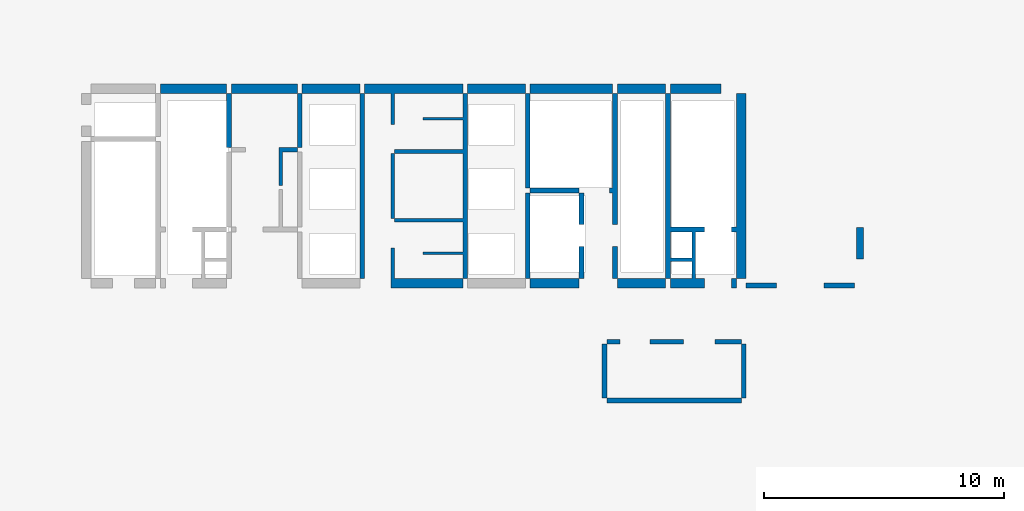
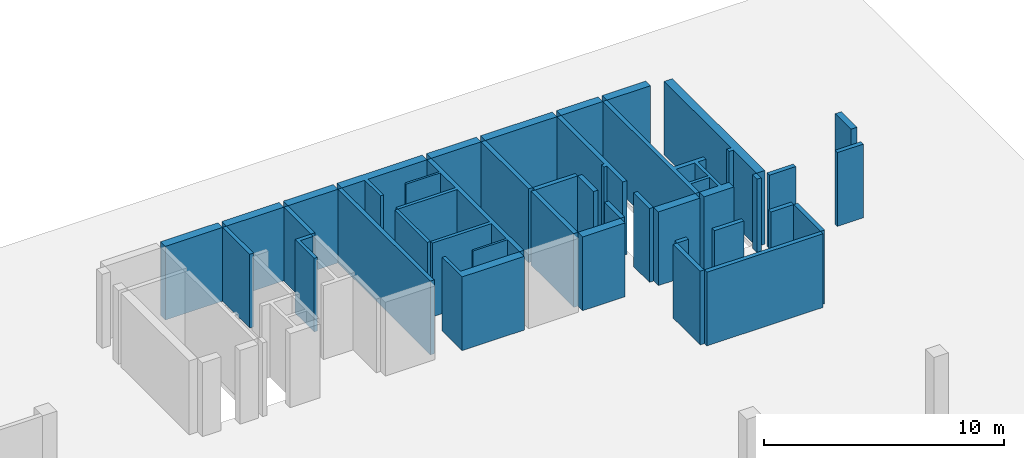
# One storey, part 2 of 2: 36 walls.
"""IFC4 building model written with IfcOpenShell, lengths in millimetres."""

from ifc_helpers import new_model, si_unit, frame, origin, place, context, project, spatial, triangles, element, save


model = new_model("IFC4")

# Units and contexts
model_context = context("Model", 3, precision=0.001, world=origin())
ifc_project = project(units=[si_unit("LENGTHUNIT", "METRE", prefix="MILLI"), si_unit("AREAUNIT", "SQUARE_METRE"), si_unit("VOLUMEUNIT", "CUBIC_METRE")], contexts=[model_context])

# Site, building, storey
site_placement = place(None, origin())
site = spatial("IfcSite", under=ifc_project, at=site_placement, Name="Site", CompositionType="ELEMENT")
building_placement = place(site_placement, origin())
building = spatial("IfcBuilding", under=site, at=building_placement, Name="INNOCEAN", CompositionType="ELEMENT")
storey_placement = place(building_placement, frame((0.0, 0.0, -9000.0)))
storey = spatial("IfcBuildingStorey", under=building, at=storey_placement, Name="B2", CompositionType="ELEMENT", Elevation=-9000.0)

# Walls
wall_1_placement = place(storey_placement, origin())
element("IfcWall", 1, at=wall_1_placement, inside=storey, Name="B2_Walls_B2_019", context=model_context, shape_type="Tessellation", body=[
    triangles([(19183.7, 25025.8, 0.0), (19183.7, 25419.5, 0.0), (19183.7, 25419.5, 3750.0), (19183.7, 25025.8, 3750.0), (16429.3, 25025.8, 3750.0), (16429.3, 25025.8, 0.0), (16429.3, 25419.5, 0.0), (16429.3, 25419.5, 3750.0)], [[1, 2, 3], [1, 3, 4], [1, 4, 5], [6, 1, 5], [7, 6, 5], [7, 5, 8], [7, 8, 3], [2, 7, 3], [7, 2, 1], [7, 1, 6], [3, 8, 4], [4, 8, 5]], closed=True),
])
wall_2_placement = place(storey_placement, origin())
element("IfcWall", 2, at=wall_2_placement, inside=storey, Name="B2_Walls_B2_021", context=model_context, shape_type="Tessellation", body=[
    triangles([(29020.9, 17316.1, 0.0), (26177.7, 17316.1, 0.0), (26177.7, 17316.1, 3750.0), (29020.9, 17316.1, 3750.0), (29020.9, 16922.4, 0.0), (29020.9, 16922.4, 3750.0), (26025.3, 16922.4, 0.0), (26025.3, 16922.4, 3750.0), (26025.3, 17316.1, 0.0), (26025.3, 17316.1, 3750.0), (26025.3, 18573.5, 0.0), (26025.3, 18573.5, 3750.0), (26177.7, 18573.5, 0.0), (26177.7, 18573.5, 3750.0)], [[1, 2, 3], [1, 3, 4], [5, 1, 4], [5, 4, 6], [7, 5, 6], [7, 6, 8], [9, 7, 8], [9, 8, 10], [11, 9, 10], [11, 10, 12], [13, 11, 12], [13, 12, 14], [2, 13, 14], [2, 14, 3], [2, 1, 5], [2, 5, 7], [9, 2, 7], [13, 2, 9], [11, 13, 9], [4, 3, 6], [6, 3, 8], [3, 10, 8], [3, 14, 10], [14, 12, 10]], closed=True),
])
wall_3_placement = place(storey_placement, origin())
element("IfcWall", 3, at=wall_3_placement, inside=storey, Name="B2_Walls_B2_025", context=model_context, shape_type="Tessellation", body=[
    triangles([(29020.9, 19818.3, 0.0), (26380.8, 19818.3, 0.0), (26380.8, 19818.3, 3750.0), (29020.9, 19818.3, 3750.0), (29020.9, 22523.6, 0.0), (29020.9, 22523.6, 3750.0), (26380.8, 22523.6, 0.0), (26380.8, 22523.6, 3750.0), (26177.7, 22523.6, 0.0), (26177.7, 22523.6, 3750.0), (26177.7, 22676.1, 0.0), (26177.7, 22676.1, 3750.0), (26380.8, 22676.1, 0.0), (26380.8, 22676.1, 3750.0), (29020.9, 22676.1, 0.0), (29020.9, 22676.1, 3750.0), (29020.9, 23920.8, 0.0), (29020.9, 23920.8, 3750.0), (29020.0, 23920.8, 3750.0), (29020.0, 23920.8, 0.0), (29020.0, 23920.0, 0.0), (29020.0, 23920.0, 3750.0), (27370.0, 23920.0, 0.0), (27370.0, 23920.0, 3750.0), (27370.0, 24020.0, 0.0), (27370.0, 24020.0, 3750.0), (27370.8, 24020.0, 0.0), (27370.8, 24020.0, 3750.0), (27370.8, 24022.4, 0.0), (27370.8, 24022.4, 3750.0), (29020.9, 24022.4, 0.0), (29020.9, 24022.4, 3750.0), (29020.9, 25025.8, 0.0), (29020.9, 25025.8, 3750.0), (29224.0, 25025.8, 0.0), (29224.0, 25025.8, 3750.0), (29224.0, 22523.6, 0.0), (29224.0, 22523.6, 3750.0), (29224.0, 19818.3, 0.0), (29224.0, 19818.3, 3750.0), (29224.0, 17316.1, 0.0), (29224.0, 17316.1, 3750.0), (29020.9, 17316.1, 0.0), (29020.9, 17316.1, 3750.0), (29020.9, 18319.5, 0.0), (29020.9, 18319.5, 3750.0), (27370.8, 18319.5, 0.0), (27370.8, 18319.5, 3750.0), (27370.8, 18320.0, 0.0), (27370.8, 18320.0, 3750.0), (27370.0, 18320.0, 0.0), (27370.0, 18320.0, 3750.0), (27370.0, 18420.0, 0.0), (27370.0, 18420.0, 3750.0), (27370.8, 18420.0, 0.0), (27370.8, 18420.0, 3750.0), (27370.8, 18421.1, 0.0), (27370.8, 18421.1, 3750.0), (29020.9, 18421.1, 0.0), (29020.9, 18421.1, 3750.0), (29020.9, 19665.8, 0.0), (29020.9, 19665.8, 3750.0), (26380.8, 19665.8, 0.0), (26380.8, 19665.8, 3750.0), (26177.7, 19665.8, 0.0), (26177.7, 19665.8, 3750.0), (26177.7, 19818.3, 0.0), (26177.7, 19818.3, 3750.0)], [[1, 2, 3], [1, 3, 4], [5, 1, 4], [5, 4, 6], [7, 5, 6], [7, 6, 8], [9, 7, 8], [9, 8, 10], [11, 9, 10], [11, 10, 12], [13, 11, 12], [13, 12, 14], [15, 13, 14], [15, 14, 16], [17, 15, 16], [17, 16, 18], [17, 18, 19], [20, 17, 19], [21, 20, 19], [21, 19, 22], [23, 21, 22], [23, 22, 24], [25, 23, 24], [25, 24, 26], [27, 25, 26], [27, 26, 28], [29, 27, 28], [29, 28, 30], [31, 29, 30], [31, 30, 32], [33, 31, 32], [33, 32, 34], [35, 33, 34], [35, 34, 36], [37, 35, 36], [37, 36, 38], [39, 37, 38], [39, 38, 40], [41, 39, 40], [41, 40, 42], [43, 41, 42], [43, 42, 44], [45, 43, 44], [45, 44, 46], [47, 45, 46], [47, 46, 48], [49, 47, 48], [49, 48, 50], [51, 49, 50], [51, 50, 52], [53, 51, 52], [53, 52, 54], [55, 53, 54], [55, 54, 56], [57, 55, 56], [57, 56, 58], [59, 57, 58], [59, 58, 60], [61, 59, 60], [61, 60, 62], [63, 61, 62], [63, 62, 64], [65, 63, 64], [65, 64, 66], [67, 65, 66], [67, 66, 68], [2, 67, 68], [2, 68, 3], [45, 41, 43], [59, 41, 45], [39, 41, 59], [61, 39, 59], [1, 39, 61], [49, 45, 47], [55, 49, 51], [55, 59, 45], [55, 45, 49], [53, 55, 51], [57, 59, 55], [2, 61, 63], [2, 1, 61], [5, 37, 39], [5, 39, 1], [67, 63, 65], [67, 2, 63], [15, 37, 5], [17, 37, 15], [31, 17, 20], [35, 17, 31], [35, 37, 17], [33, 35, 31], [13, 5, 7], [13, 15, 5], [11, 7, 9], [11, 13, 7], [23, 20, 21], [27, 31, 20], [27, 20, 23], [25, 27, 23], [29, 31, 27], [42, 46, 44], [42, 60, 46], [42, 40, 60], [40, 62, 60], [40, 4, 62], [46, 50, 48], [50, 56, 52], [60, 56, 46], [46, 56, 50], [56, 54, 52], [60, 58, 56], [62, 3, 64], [4, 3, 62], [38, 6, 40], [40, 6, 4], [64, 68, 66], [3, 68, 64], [38, 16, 6], [38, 18, 16], [18, 32, 19], [18, 36, 32], [38, 36, 18], [36, 34, 32], [6, 14, 8], [16, 14, 6], [8, 12, 10], [14, 12, 8], [19, 24, 22], [32, 28, 19], [19, 28, 24], [28, 26, 24], [32, 30, 28]], closed=True),
])
wall_4_placement = place(storey_placement, origin())
element("IfcWall", 4, at=wall_4_placement, inside=storey, Name="B2_Walls_B2_028", context=model_context, shape_type="Tessellation", body=[
    triangles([(24730.6, 25025.8, 0.0), (24730.6, 25025.8, 3750.0), (24921.0, 25025.8, 3750.0), (24921.0, 25025.8, 0.0), (24921.0, 17316.1, 0.0), (24921.0, 17316.1, 3750.0), (24730.6, 17316.1, 3750.0), (24730.6, 17316.1, 0.0)], [[1, 2, 3], [4, 1, 3], [5, 4, 3], [5, 3, 6], [5, 6, 7], [8, 5, 7], [1, 8, 7], [1, 7, 2], [1, 4, 5], [1, 5, 8], [3, 2, 6], [6, 2, 7]], closed=True),
])
wall_5_placement = place(storey_placement, origin())
element("IfcWall", 5, at=wall_5_placement, inside=storey, Name="B2_Walls_B2_029", context=model_context, shape_type="Tessellation", body=[
    triangles([(26177.7, 19818.3, 0.0), (26177.7, 22523.6, 0.0), (26177.7, 22523.6, 3750.0), (26177.7, 19818.3, 3750.0), (26025.3, 19818.3, 0.0), (26025.3, 19818.3, 3750.0), (26025.3, 22523.6, 0.0), (26025.3, 22523.6, 3750.0)], [[1, 2, 3], [1, 3, 4], [5, 1, 4], [5, 4, 6], [7, 5, 6], [7, 6, 8], [2, 7, 8], [2, 8, 3], [7, 2, 1], [7, 1, 5], [3, 8, 4], [4, 8, 6]], closed=True),
])
wall_6_placement = place(storey_placement, origin())
element("IfcWall", 6, at=wall_6_placement, inside=storey, Name="B2_Walls_B2_030", context=model_context, shape_type="Tessellation", body=[
    triangles([(22128.5, 22765.0, 0.0), (21366.9, 22765.0, 0.0), (21366.9, 22765.0, 3750.0), (22128.5, 22765.0, 3750.0), (22128.5, 22574.4, 0.0), (22128.5, 22574.4, 3750.0), (21519.3, 22574.4, 0.0), (21519.3, 22574.4, 3750.0), (21519.3, 21177.3, 0.0), (21519.3, 21177.3, 3750.0), (21366.9, 21177.3, 0.0), (21366.9, 21177.3, 3750.0), (21366.9, 22574.4, 0.0), (21366.9, 22574.4, 3750.0)], [[1, 2, 3], [1, 3, 4], [5, 1, 4], [5, 4, 6], [7, 5, 6], [7, 6, 8], [9, 7, 8], [9, 8, 10], [11, 9, 10], [11, 10, 12], [13, 11, 12], [13, 12, 14], [2, 13, 14], [2, 14, 3], [7, 1, 5], [13, 7, 9], [13, 9, 11], [2, 1, 7], [2, 7, 13], [4, 8, 6], [8, 14, 10], [10, 14, 12], [4, 3, 8], [8, 3, 14]], closed=True),
])
wall_7_placement = place(storey_placement, origin())
element("IfcWall", 7, at=wall_7_placement, inside=storey, Name="B2_Walls_B2_032", context=model_context, shape_type="Tessellation", body=[
    triangles([(19374.1, 22765.0, 0.0), (19374.1, 25025.8, 0.0), (19374.1, 25025.8, 3750.0), (19374.1, 22765.0, 3750.0), (19183.7, 22765.0, 0.0), (19183.7, 22765.0, 3750.0), (19183.7, 25025.8, 0.0), (19183.7, 25025.8, 3750.0)], [[1, 2, 3], [1, 3, 4], [5, 1, 4], [5, 4, 6], [7, 5, 6], [7, 6, 8], [2, 7, 8], [2, 8, 3], [7, 2, 1], [7, 1, 5], [3, 8, 4], [4, 8, 6]], closed=True),
])
wall_8_placement = place(storey_placement, origin())
element("IfcWall", 8, at=wall_8_placement, inside=storey, Name="B2_Walls_B2_033", context=model_context, shape_type="Tessellation", body=[
    triangles([(22331.6, 22765.0, 0.0), (22331.6, 25025.8, 0.0), (22331.6, 25025.8, 3750.0), (22331.6, 22765.0, 3750.0), (22128.5, 22765.0, 0.0), (22128.5, 22765.0, 3750.0), (22128.5, 25025.8, 0.0), (22128.5, 25025.8, 3750.0)], [[1, 2, 3], [1, 3, 4], [5, 1, 4], [5, 4, 6], [7, 5, 6], [7, 6, 8], [2, 7, 8], [2, 8, 3], [7, 2, 1], [7, 1, 5], [3, 8, 4], [4, 8, 6]], closed=True),
])
wall_9_placement = place(storey_placement, origin())
element("IfcWall", 9, at=wall_9_placement, inside=storey, Name="B2_Walls_B2_034", context=model_context, shape_type="Tessellation", body=[
    triangles([(26025.3, 23717.6, 0.0), (26177.7, 23717.6, 0.0), (26177.7, 23717.6, 3750.0), (26025.3, 23717.6, 3750.0), (26025.3, 25025.8, 0.0), (26025.3, 25025.8, 3750.0), (24921.0, 25025.8, 0.0), (24921.0, 25025.8, 3750.0), (24921.0, 25419.5, 0.0), (24921.0, 25419.5, 3750.0), (29020.9, 25419.5, 0.0), (29020.9, 25419.5, 3750.0), (29020.9, 25025.8, 0.0), (29020.9, 25025.8, 3750.0), (26177.7, 25025.8, 0.0), (26177.7, 25025.8, 3750.0)], [[1, 2, 3], [1, 3, 4], [5, 1, 4], [5, 4, 6], [7, 5, 6], [7, 6, 8], [9, 7, 8], [9, 8, 10], [11, 9, 10], [11, 10, 12], [13, 11, 12], [13, 12, 14], [15, 13, 14], [15, 14, 16], [2, 15, 16], [2, 16, 3], [15, 11, 13], [5, 2, 1], [5, 15, 2], [9, 5, 7], [9, 15, 5], [9, 11, 15], [12, 16, 14], [3, 6, 4], [16, 6, 3], [6, 10, 8], [16, 10, 6], [12, 10, 16]], closed=True),
])
wall_10_placement = place(storey_placement, origin())
element("IfcWall", 10, at=wall_10_placement, inside=storey, Name="B2_Walls_B2_035", context=model_context, shape_type="Tessellation", body=[
    triangles([(22128.5, 25025.8, 0.0), (22128.5, 25419.5, 0.0), (22128.5, 25419.5, 3750.0), (22128.5, 25025.8, 3750.0), (19374.1, 25025.8, 3750.0), (19374.1, 25025.8, 0.0), (19374.1, 25419.5, 0.0), (19374.1, 25419.5, 3750.0)], [[1, 2, 3], [1, 3, 4], [1, 4, 5], [6, 1, 5], [7, 6, 5], [7, 5, 8], [7, 8, 3], [2, 7, 3], [7, 2, 1], [7, 1, 6], [3, 8, 4], [4, 8, 5]], closed=True),
])
wall_11_placement = place(storey_placement, origin())
element("IfcWall", 11, at=wall_11_placement, inside=storey, Name="B2_Walls_B2_036", context=model_context, shape_type="Tessellation", body=[
    triangles([(24730.6, 25025.8, 0.0), (24730.6, 25419.5, 0.0), (24730.6, 25419.5, 3750.0), (24730.6, 25025.8, 3750.0), (22331.6, 25025.8, 3750.0), (22331.6, 25025.8, 0.0), (22331.6, 25419.5, 0.0), (22331.6, 25419.5, 3750.0)], [[1, 2, 3], [1, 3, 4], [1, 4, 5], [6, 1, 5], [7, 6, 5], [7, 5, 8], [7, 8, 3], [2, 7, 3], [7, 2, 1], [7, 1, 6], [3, 8, 4], [4, 8, 5]], closed=True),
])
wall_12_placement = place(storey_placement, origin())
element("IfcWall", 12, at=wall_12_placement, inside=storey, Name="B2_Walls_B2_037", context=model_context, shape_type="Tessellation", body=[
    triangles([(34821.8, 14572.6, 0.0), (34821.8, 14572.6, 3750.0), (35024.8, 14572.6, 3750.0), (35024.8, 14572.6, 0.0), (35024.8, 12324.5, 3750.0), (35024.8, 12324.5, 0.0), (34821.8, 12324.5, 3750.0), (34821.8, 12324.5, 0.0)], [[1, 2, 3], [4, 1, 3], [4, 3, 5], [6, 4, 5], [6, 5, 7], [8, 6, 7], [8, 7, 2], [1, 8, 2], [1, 4, 6], [1, 6, 8], [3, 2, 5], [5, 2, 7]], closed=True),
])
wall_13_placement = place(storey_placement, origin())
element("IfcWall", 13, at=wall_13_placement, inside=storey, Name="B2_Walls_B2_038", context=model_context, shape_type="Tessellation", body=[
    triangles([(35024.8, 14775.8, 0.0), (35024.8, 14775.8, 3750.0), (35570.7, 14775.8, 3750.0), (35570.7, 14775.8, 0.0), (35570.7, 14572.6, 3750.0), (35570.7, 14572.6, 0.0), (35024.8, 14572.6, 3750.0), (35024.8, 14572.6, 0.0)], [[1, 2, 3], [4, 1, 3], [4, 3, 5], [6, 4, 5], [6, 5, 7], [8, 6, 7], [8, 7, 2], [1, 8, 2], [1, 4, 6], [1, 6, 8], [3, 2, 5], [5, 2, 7]], closed=True),
])
wall_14_placement = place(storey_placement, origin())
element("IfcWall", 14, at=wall_14_placement, inside=storey, Name="B2_Walls_B2_040", context=model_context, shape_type="Tessellation", body=[
    triangles([(33869.8, 16922.4, 0.0), (33869.8, 17316.1, 0.0), (33869.8, 17316.1, 3750.0), (33869.8, 16922.4, 3750.0), (31826.2, 16922.4, 0.0), (31826.2, 16922.4, 3750.0), (31826.2, 17316.1, 0.0), (31826.2, 17316.1, 3750.0)], [[1, 2, 3], [1, 3, 4], [5, 1, 4], [5, 4, 6], [7, 5, 6], [7, 6, 8], [2, 7, 8], [2, 8, 3], [7, 2, 1], [7, 1, 5], [3, 8, 4], [4, 8, 6]], closed=True),
])
wall_15_placement = place(storey_placement, origin())
element("IfcWall", 15, at=wall_15_placement, inside=storey, Name="B2_Walls_B2_041", context=model_context, shape_type="Tessellation", body=[
    triangles([(35469.1, 16922.4, 0.0), (37474.6, 16922.4, 0.0), (37474.6, 16922.4, 3750.0), (35469.1, 16922.4, 3750.0), (35469.1, 17316.1, 0.0), (35469.1, 17316.1, 3750.0), (37474.6, 17316.1, 0.0), (37474.6, 17316.1, 3750.0)], [[1, 2, 3], [1, 3, 4], [5, 1, 4], [5, 4, 6], [7, 5, 6], [7, 6, 8], [2, 7, 8], [2, 8, 3], [5, 2, 1], [5, 7, 2], [3, 6, 4], [8, 6, 3]], closed=True),
])
wall_16_placement = place(storey_placement, origin())
element("IfcWall", 16, at=wall_16_placement, inside=storey, Name="B2_Walls_B2_042", context=model_context, shape_type="Tessellation", body=[
    triangles([(34072.9, 17316.1, 0.0), (34072.9, 18649.7, 0.0), (34072.9, 18649.7, 3750.0), (34072.9, 17316.1, 3750.0), (33869.8, 17316.1, 0.0), (33869.8, 17316.1, 3750.0), (33869.8, 18649.7, 0.0), (33869.8, 18649.7, 3750.0)], [[1, 2, 3], [1, 3, 4], [5, 1, 4], [5, 4, 6], [7, 5, 6], [7, 6, 8], [2, 7, 8], [2, 8, 3], [7, 2, 1], [7, 1, 5], [3, 8, 4], [4, 8, 6]], closed=True),
])
wall_17_placement = place(storey_placement, origin())
element("IfcWall", 17, at=wall_17_placement, inside=storey, Name="B2_Walls_B2_043", context=model_context, shape_type="Tessellation", body=[
    triangles([(35469.1, 17316.1, 0.0), (35469.1, 18649.7, 0.0), (35469.1, 18649.7, 3750.0), (35469.1, 17316.1, 3750.0), (35266.0, 17316.1, 0.0), (35266.0, 17316.1, 3750.0), (35266.0, 18649.7, 0.0), (35266.0, 18649.7, 3750.0)], [[1, 2, 3], [1, 3, 4], [5, 1, 4], [5, 4, 6], [7, 5, 6], [7, 6, 8], [2, 7, 8], [2, 8, 3], [7, 2, 1], [7, 1, 5], [3, 8, 4], [4, 8, 6]], closed=True),
])
wall_18_placement = place(storey_placement, origin())
element("IfcWall", 18, at=wall_18_placement, inside=storey, Name="B2_Walls_B2_044", context=model_context, shape_type="Tessellation", body=[
    triangles([(31623.1, 20872.5, 0.0), (31623.1, 20872.5, 3750.0), (31826.2, 20872.5, 3750.0), (31826.2, 20872.5, 0.0), (31826.2, 17316.1, 0.0), (31826.2, 17316.1, 3750.0), (31623.1, 17316.1, 3750.0), (31623.1, 17316.1, 0.0)], [[1, 2, 3], [4, 1, 3], [5, 4, 3], [5, 3, 6], [5, 6, 7], [8, 5, 7], [1, 8, 7], [1, 7, 2], [1, 4, 5], [1, 5, 8], [3, 2, 6], [6, 2, 7]], closed=True),
])
wall_19_placement = place(storey_placement, origin())
element("IfcWall", 19, at=wall_19_placement, inside=storey, Name="B2_Walls_B2_045", context=model_context, shape_type="Tessellation", body=[
    triangles([(34072.9, 19551.5, 0.0), (34072.9, 20872.5, 0.0), (34072.9, 20872.5, 3750.0), (34072.9, 19551.5, 3750.0), (33869.8, 19551.5, 0.0), (33869.8, 19551.5, 3750.0), (33869.8, 20872.5, 0.0), (33869.8, 20872.5, 3750.0)], [[1, 2, 3], [1, 3, 4], [5, 1, 4], [5, 4, 6], [7, 5, 6], [7, 6, 8], [2, 7, 8], [2, 8, 3], [7, 2, 1], [7, 1, 5], [3, 8, 4], [4, 8, 6]], closed=True),
])
wall_20_placement = place(storey_placement, origin())
element("IfcWall", 20, at=wall_20_placement, inside=storey, Name="B2_Walls_B2_046", context=model_context, shape_type="Tessellation", body=[
    triangles([(35469.1, 21075.7, 0.0), (35469.1, 25025.8, 0.0), (35469.1, 25025.8, 3750.0), (35469.1, 21075.7, 3750.0), (35469.1, 20872.5, 3750.0), (35469.1, 20872.5, 0.0), (35469.1, 19551.5, 0.0), (35469.1, 19551.5, 3750.0), (35266.0, 19551.5, 0.0), (35266.0, 19551.5, 3750.0), (35266.0, 20872.5, 0.0), (35266.0, 20872.5, 3750.0), (35126.4, 20872.5, 0.0), (35126.4, 20872.5, 3750.0), (35126.4, 21075.7, 3750.0), (35126.4, 21075.7, 0.0), (35266.0, 21075.7, 0.0), (35266.0, 21075.7, 3750.0), (35266.0, 25025.8, 0.0), (35266.0, 25025.8, 3750.0)], [[1, 2, 3], [1, 3, 4], [1, 4, 5], [6, 1, 5], [7, 6, 5], [7, 5, 8], [9, 7, 8], [9, 8, 10], [11, 9, 10], [11, 10, 12], [13, 11, 12], [13, 12, 14], [13, 14, 15], [16, 13, 15], [17, 16, 15], [17, 15, 18], [19, 17, 18], [19, 18, 20], [2, 19, 20], [2, 20, 3], [11, 6, 7], [11, 7, 9], [1, 6, 11], [17, 1, 11], [16, 11, 13], [16, 17, 11], [19, 2, 1], [19, 1, 17], [5, 12, 8], [8, 12, 10], [5, 4, 12], [4, 18, 12], [12, 15, 14], [18, 15, 12], [3, 20, 4], [4, 20, 18]], closed=True),
])
wall_21_placement = place(storey_placement, origin())
element("IfcWall", 21, at=wall_21_placement, inside=storey, Name="B2_Walls_B2_047", context=model_context, shape_type="Tessellation", body=[
    triangles([(33869.8, 21075.7, 0.0), (33869.8, 21075.7, 3750.0), (33869.8, 20872.5, 3750.0), (33869.8, 20872.5, 0.0), (31826.2, 20872.5, 0.0), (31826.2, 20872.5, 3750.0), (31826.2, 21075.7, 3750.0), (31826.2, 21075.7, 0.0)], [[1, 2, 3], [4, 1, 3], [5, 4, 3], [5, 3, 6], [5, 6, 7], [8, 5, 7], [1, 8, 7], [1, 7, 2], [8, 1, 4], [8, 4, 5], [2, 7, 3], [3, 7, 6]], closed=True),
])
wall_22_placement = place(storey_placement, origin())
element("IfcWall", 22, at=wall_22_placement, inside=storey, Name="B2_Walls_B2_048", context=model_context, shape_type="Tessellation", body=[
    triangles([(31826.2, 21075.7, 0.0), (31826.2, 25025.8, 0.0), (31826.2, 25025.8, 3750.0), (31826.2, 21075.7, 3750.0), (31623.1, 21075.7, 3750.0), (31623.1, 21075.7, 0.0), (31623.1, 25025.8, 0.0), (31623.1, 25025.8, 3750.0)], [[1, 2, 3], [1, 3, 4], [1, 4, 5], [6, 1, 5], [7, 6, 5], [7, 5, 8], [7, 8, 3], [2, 7, 3], [2, 1, 6], [7, 2, 6], [4, 3, 5], [3, 8, 5]], closed=True),
])
wall_23_placement = place(storey_placement, origin())
element("IfcWall", 23, at=wall_23_placement, inside=storey, Name="B2_Walls_B2_049", context=model_context, shape_type="Tessellation", body=[
    triangles([(31623.1, 25419.5, 0.0), (29224.0, 25419.5, 0.0), (29224.0, 25419.5, 3750.0), (31623.1, 25419.5, 3750.0), (31623.1, 25025.8, 0.0), (31623.1, 25025.8, 3750.0), (29224.0, 25025.8, 0.0), (29224.0, 25025.8, 3750.0)], [[1, 2, 3], [1, 3, 4], [5, 1, 4], [5, 4, 6], [7, 5, 6], [7, 6, 8], [2, 7, 8], [2, 8, 3], [2, 1, 5], [2, 5, 7], [4, 3, 6], [6, 3, 8]], closed=True),
])
wall_24_placement = place(storey_placement, origin())
element("IfcWall", 24, at=wall_24_placement, inside=storey, Name="B2_Walls_B2_050", context=model_context, shape_type="Tessellation", body=[
    triangles([(35266.0, 25025.8, 0.0), (35266.0, 25419.5, 0.0), (35266.0, 25419.5, 3750.0), (35266.0, 25025.8, 3750.0), (31826.2, 25025.8, 3750.0), (31826.2, 25025.8, 0.0), (31826.2, 25419.5, 0.0), (31826.2, 25419.5, 3750.0)], [[1, 2, 3], [1, 3, 4], [1, 4, 5], [6, 1, 5], [7, 6, 5], [7, 5, 8], [7, 8, 3], [2, 7, 3], [7, 2, 1], [7, 1, 6], [3, 8, 4], [4, 8, 5]], closed=True),
])
wall_25_placement = place(storey_placement, origin())
element("IfcWall", 25, at=wall_25_placement, inside=storey, Name="B2_Walls_B2_051", context=model_context, shape_type="Tessellation", body=[
    triangles([(40622.6, 12324.5, 0.0), (40622.6, 12324.5, 3750.0), (40622.6, 12121.3, 3750.0), (40622.6, 12121.3, 0.0), (35024.8, 12121.3, 3750.0), (35024.8, 12121.3, 0.0), (35024.8, 12324.5, 3750.0), (35024.8, 12324.5, 0.0)], [[1, 2, 3], [4, 1, 3], [5, 4, 3], [6, 4, 5], [6, 5, 7], [8, 6, 7], [2, 8, 7], [1, 8, 2], [8, 1, 4], [8, 4, 6], [2, 7, 3], [3, 7, 5]], closed=True),
])
wall_26_placement = place(storey_placement, origin())
element("IfcWall", 26, at=wall_26_placement, inside=storey, Name="B2_Walls_B2_052", context=model_context, shape_type="Tessellation", body=[
    triangles([(40813.0, 14572.6, 0.0), (40813.0, 14572.6, 3750.0), (40813.0, 12324.5, 3750.0), (40813.0, 12324.5, 0.0), (40622.6, 12324.5, 3750.0), (40622.6, 12324.5, 0.0), (40622.6, 14572.6, 3750.0), (40622.6, 14572.6, 0.0)], [[1, 2, 3], [4, 1, 3], [4, 3, 5], [6, 4, 5], [6, 5, 7], [8, 6, 7], [8, 7, 2], [1, 8, 2], [1, 4, 6], [8, 1, 6], [3, 2, 5], [2, 7, 5]], closed=True),
])
wall_27_placement = place(storey_placement, origin())
element("IfcWall", 27, at=wall_27_placement, inside=storey, Name="B2_Walls_B2_053", context=model_context, shape_type="Tessellation", body=[
    triangles([(38223.5, 14575.0, 0.0), (38223.5, 14575.0, 3750.0), (38223.5, 14572.6, 3750.0), (38223.5, 14572.6, 0.0), (36814.6, 14572.6, 0.0), (36814.6, 14572.6, 3750.0), (36814.6, 14775.8, 3750.0), (36814.6, 14775.8, 0.0), (38223.5, 14775.8, 0.0), (38223.5, 14775.8, 3750.0), (38223.5, 14775.0, 0.0), (38223.5, 14775.0, 3750.0), (38225.0, 14775.0, 3750.0), (38225.0, 14775.0, 0.0), (38225.0, 14575.0, 0.0), (38225.0, 14575.0, 3750.0)], [[1, 2, 3], [4, 1, 3], [5, 4, 3], [5, 3, 6], [5, 6, 7], [8, 5, 7], [9, 8, 7], [9, 7, 10], [11, 9, 10], [11, 10, 12], [11, 12, 13], [14, 11, 13], [15, 14, 13], [15, 13, 16], [15, 16, 2], [1, 15, 2], [11, 14, 15], [11, 15, 1], [5, 1, 4], [8, 9, 11], [8, 11, 1], [8, 1, 5], [13, 12, 16], [16, 12, 2], [2, 6, 3], [10, 7, 12], [12, 7, 2], [2, 7, 6]], closed=True),
])
wall_28_placement = place(storey_placement, origin())
element("IfcWall", 28, at=wall_28_placement, inside=storey, Name="B2_Walls_B2_054", context=model_context, shape_type="Tessellation", body=[
    triangles([(40622.6, 14775.8, 0.0), (40622.6, 14775.8, 3750.0), (40622.6, 14572.6, 3750.0), (40622.6, 14572.6, 0.0), (39518.2, 14572.6, 0.0), (39518.2, 14572.6, 3750.0), (39518.2, 14775.8, 3750.0), (39518.2, 14775.8, 0.0)], [[1, 2, 3], [4, 1, 3], [5, 4, 3], [5, 3, 6], [5, 6, 7], [8, 5, 7], [1, 8, 7], [1, 7, 2], [8, 1, 4], [8, 4, 5], [2, 7, 3], [3, 7, 6]], closed=True),
])
wall_29_placement = place(storey_placement, origin())
element("IfcWall", 29, at=wall_29_placement, inside=storey, Name="B2_Walls_B2_055", context=model_context, shape_type="Tessellation", body=[
    triangles([(40815.0, 16920.0, 0.0), (42080.0, 16920.0, 0.0), (42080.0, 16920.0, 3750.0), (40815.0, 16920.0, 3750.0), (40815.0, 16922.4, 0.0), (40815.0, 16922.4, 3750.0), (40813.0, 16922.4, 0.0), (40813.0, 16922.4, 3750.0), (40813.0, 17125.6, 0.0), (40813.0, 17125.6, 3750.0), (42082.3, 17125.6, 3750.0), (42082.3, 17125.6, 0.0), (42082.3, 16922.4, 0.0), (42082.3, 16922.4, 3750.0), (42080.0, 16922.4, 0.0), (42080.0, 16922.4, 3750.0)], [[1, 2, 3], [1, 3, 4], [5, 1, 4], [5, 4, 6], [7, 5, 6], [7, 6, 8], [9, 7, 8], [9, 8, 10], [9, 10, 11], [12, 9, 11], [13, 12, 11], [13, 11, 14], [15, 13, 14], [15, 14, 16], [2, 15, 16], [2, 16, 3], [12, 13, 15], [5, 2, 1], [5, 15, 2], [9, 5, 7], [9, 12, 15], [9, 15, 5], [14, 11, 16], [3, 6, 4], [16, 6, 3], [6, 10, 8], [11, 10, 16], [16, 10, 6]], closed=True),
])
wall_30_placement = place(storey_placement, origin())
element("IfcWall", 30, at=wall_30_placement, inside=storey, Name="B2_Walls_B2_056", context=model_context, shape_type="Tessellation", body=[
    triangles([(45331.7, 16922.4, 0.0), (45331.7, 17125.6, 0.0), (45331.7, 17125.6, 3750.0), (45331.7, 16922.4, 3750.0), (44075.1, 16922.4, 0.0), (44075.1, 16922.4, 3750.0), (44075.1, 17125.6, 0.0), (44075.1, 17125.6, 3750.0)], [[1, 2, 3], [1, 3, 4], [5, 1, 4], [5, 4, 6], [7, 5, 6], [7, 6, 8], [2, 7, 8], [2, 8, 3], [7, 2, 1], [7, 1, 5], [3, 8, 4], [4, 8, 6]], closed=True),
])
wall_31_placement = place(storey_placement, origin())
element("IfcWall", 31, at=wall_31_placement, inside=storey, Name="B2_Walls_B2_057", context=model_context, shape_type="Tessellation", body=[
    triangles([(37474.6, 17316.1, 0.0), (37474.6, 17316.1, 3750.0), (37474.6, 19449.9, 3750.0), (37474.6, 19449.9, 0.0), (37665.0, 17316.1, 0.0), (37665.0, 17316.1, 3750.0), (37665.0, 16922.4, 0.0), (37665.0, 16922.4, 3750.0), (39099.4, 16922.4, 0.0), (39099.4, 16922.4, 3750.0), (39099.4, 17316.1, 0.0), (39099.4, 17316.1, 3750.0), (38720.0, 17316.1, 0.0), (38720.0, 17316.1, 3750.0), (38720.0, 19245.0, 0.0), (38720.0, 19245.0, 3750.0), (39100.0, 19245.0, 0.0), (39100.0, 19245.0, 3750.0), (39100.0, 19450.0, 0.0), (39100.0, 19450.0, 3750.0), (37665.0, 19450.0, 0.0), (37665.0, 19450.0, 3750.0), (37665.0, 25025.8, 0.0), (37665.0, 25025.8, 3750.0), (37474.6, 25025.8, 0.0), (37474.6, 25025.8, 3750.0), (37665.0, 18014.7, 0.0), (37665.0, 18014.7, 3750.0), (38565.0, 18014.7, 0.0), (38565.0, 18014.7, 3750.0), (38565.0, 17316.1, 0.0), (38565.0, 17316.1, 3750.0), (37665.0, 19245.0, 0.0), (38565.0, 19245.0, 0.0), (38565.0, 19245.0, 3750.0), (37665.0, 19245.0, 3750.0), (38565.0, 18167.1, 0.0), (38565.0, 18167.1, 3750.0), (37665.0, 18167.1, 0.0), (37665.0, 18167.1, 3750.0)], [[1, 2, 3], [4, 1, 3], [5, 6, 2], [1, 5, 2], [5, 7, 8], [5, 8, 6], [9, 10, 8], [7, 9, 8], [9, 11, 12], [9, 12, 10], [11, 13, 14], [11, 14, 12], [13, 15, 16], [13, 16, 14], [15, 17, 18], [15, 18, 16], [17, 19, 20], [17, 20, 18], [21, 22, 20], [19, 21, 20], [21, 23, 24], [21, 24, 22], [25, 26, 24], [23, 25, 24], [25, 4, 3], [25, 3, 26], [5, 27, 28], [5, 28, 6], [27, 29, 30], [27, 30, 28], [29, 31, 32], [29, 32, 30], [31, 5, 6], [31, 6, 32], [33, 34, 35], [33, 35, 36], [34, 37, 38], [34, 38, 35], [37, 39, 40], [37, 40, 38], [39, 33, 36], [39, 36, 40], [13, 11, 9], [31, 13, 9], [7, 31, 9], [29, 13, 31], [5, 31, 7], [27, 5, 1], [39, 29, 27], [39, 37, 29], [39, 27, 1], [15, 19, 17], [34, 15, 37], [34, 19, 15], [21, 34, 33], [21, 19, 34], [4, 33, 39], [4, 21, 33], [4, 39, 1], [25, 23, 21], [25, 21, 4], [15, 13, 29], [15, 29, 37], [12, 14, 10], [14, 32, 10], [32, 8, 10], [14, 30, 32], [32, 6, 8], [6, 28, 2], [30, 40, 28], [38, 40, 30], [28, 40, 2], [20, 16, 18], [16, 35, 38], [20, 35, 16], [35, 22, 36], [20, 22, 35], [36, 3, 40], [22, 3, 36], [40, 3, 2], [24, 26, 22], [22, 26, 3], [14, 16, 30], [30, 16, 38]], closed=True),
])
wall_32_placement = place(storey_placement, origin())
element("IfcWall", 32, at=wall_32_placement, inside=storey, Name="B2_Walls_B2_058", context=model_context, shape_type="Tessellation", body=[
    triangles([(40419.5, 16922.4, 0.0), (40419.5, 17316.1, 0.0), (40419.5, 17316.1, 3750.0), (40419.5, 16922.4, 3750.0), (40216.4, 16922.4, 0.0), (40216.4, 16922.4, 3750.0), (40216.4, 17316.1, 0.0), (40216.4, 17316.1, 3750.0)], [[1, 2, 3], [1, 3, 4], [5, 1, 4], [5, 4, 6], [7, 5, 6], [7, 6, 8], [2, 7, 8], [2, 8, 3], [7, 2, 1], [7, 1, 5], [3, 8, 4], [4, 8, 6]], closed=True),
])
wall_33_placement = place(storey_placement, origin())
element("IfcWall", 33, at=wall_33_placement, inside=storey, Name="B2_Walls_B2_059", context=model_context, shape_type="Tessellation", body=[
    triangles([(40215.0, 19450.0, 0.0), (40215.0, 19245.0, 0.0), (40215.0, 19245.0, 3750.0), (40215.0, 19450.0, 3750.0), (40419.5, 19450.0, 3750.0), (40419.5, 19450.0, 0.0), (40419.5, 25013.1, 0.0), (40419.5, 25013.1, 3750.0), (40813.0, 25013.1, 0.0), (40813.0, 25013.1, 3750.0), (40813.0, 19449.9, 3750.0), (40813.0, 19449.9, 0.0), (40813.0, 17316.1, 3750.0), (40813.0, 17316.1, 0.0), (40419.5, 17316.1, 0.0), (40419.5, 17316.1, 3750.0), (40419.5, 19245.0, 0.0), (40419.5, 19245.0, 3750.0)], [[1, 2, 3], [1, 3, 4], [1, 4, 5], [6, 1, 5], [7, 6, 5], [7, 5, 8], [9, 7, 8], [9, 8, 10], [11, 9, 10], [12, 9, 11], [12, 11, 13], [14, 12, 13], [15, 14, 13], [15, 13, 16], [17, 15, 16], [17, 16, 18], [17, 18, 3], [2, 17, 3], [17, 12, 14], [17, 14, 15], [6, 12, 17], [1, 17, 2], [1, 6, 17], [9, 12, 6], [7, 9, 6], [11, 18, 13], [13, 18, 16], [11, 5, 18], [18, 4, 3], [5, 4, 18], [11, 10, 5], [10, 8, 5]], closed=True),
])
wall_34_placement = place(storey_placement, origin())
element("IfcWall", 34, at=wall_34_placement, inside=storey, Name="B2_Walls_B2_060", context=model_context, shape_type="Tessellation", body=[
    triangles([(45712.5, 18116.3, 0.0), (45712.5, 19424.5, 0.0), (45712.5, 19424.5, 3750.0), (45712.5, 18116.3, 3750.0), (45420.6, 18116.3, 0.0), (45420.6, 18116.3, 3750.0), (45420.6, 19424.5, 0.0), (45420.6, 19424.5, 3750.0)], [[1, 2, 3], [1, 3, 4], [5, 1, 4], [5, 4, 6], [7, 5, 6], [7, 6, 8], [2, 7, 8], [2, 8, 3], [2, 1, 5], [7, 2, 5], [4, 3, 6], [3, 8, 6]], closed=True),
])
wall_35_placement = place(storey_placement, origin())
element("IfcWall", 35, at=wall_35_placement, inside=storey, Name="B2_Walls_B2_061", context=model_context, shape_type="Tessellation", body=[
    triangles([(37474.6, 25025.8, 0.0), (37474.6, 25419.5, 0.0), (37474.6, 25419.5, 3750.0), (37474.6, 25025.8, 3750.0), (35469.1, 25025.8, 0.0), (35469.1, 25025.8, 3750.0), (35469.1, 25419.5, 0.0), (35469.1, 25419.5, 3750.0)], [[1, 2, 3], [1, 3, 4], [5, 1, 4], [5, 4, 6], [7, 5, 6], [7, 6, 8], [2, 7, 8], [2, 8, 3], [7, 2, 1], [7, 1, 5], [3, 8, 4], [4, 8, 6]], closed=True),
])
wall_36_placement = place(storey_placement, origin())
element("IfcWall", 36, at=wall_36_placement, inside=storey, Name="B2_Walls_B2_062", context=model_context, shape_type="Tessellation", body=[
    triangles([(39772.1, 25025.8, 0.0), (39772.1, 25419.5, 0.0), (39772.1, 25419.5, 3750.0), (39772.1, 25025.8, 3750.0), (37665.0, 25025.8, 0.0), (37665.0, 25025.8, 3750.0), (37665.0, 25419.5, 0.0), (37665.0, 25419.5, 3750.0)], [[1, 2, 3], [1, 3, 4], [5, 1, 4], [5, 4, 6], [7, 5, 6], [7, 6, 8], [2, 7, 8], [2, 8, 3], [7, 2, 1], [7, 1, 5], [3, 8, 4], [4, 8, 6]], closed=True),
])

save(model, "model.ifc")
